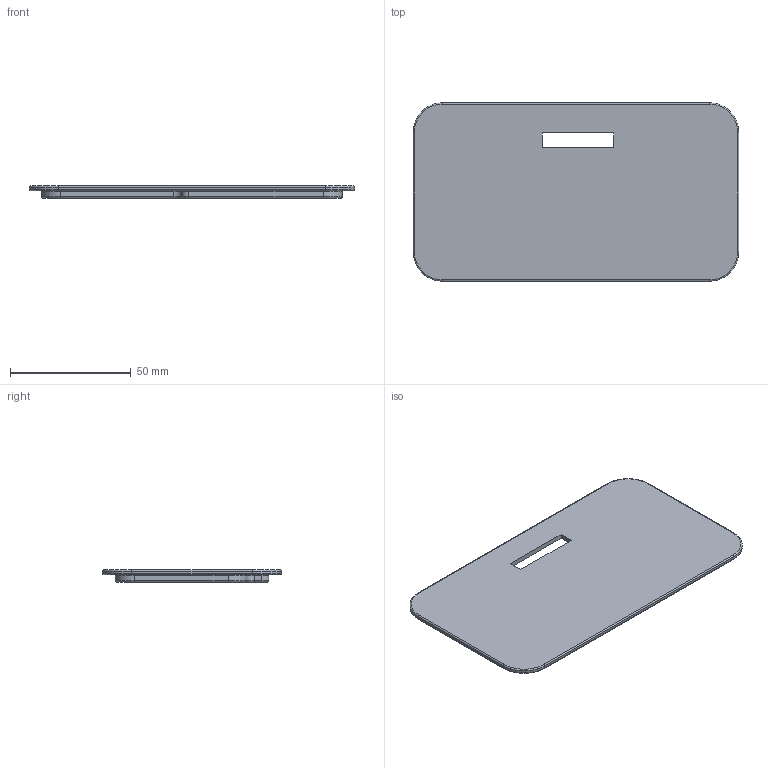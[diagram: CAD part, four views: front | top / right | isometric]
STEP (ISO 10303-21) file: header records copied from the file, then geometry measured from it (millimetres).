
FILE_DESCRIPTION(('FreeCAD Model'),'2;1');
FILE_NAME('Open CASCADE Shape Model','2023-09-06T18:21:01',(''),(''), 'Open CASCADE STEP processor 7.6','FreeCAD','Unknown');
FILE_SCHEMA(('AUTOMOTIVE_DESIGN { 1 0 10303 214 1 1 1 1 }'));
Length unit declared in the file: millimetre
Products named in the file (1): Upper_Case_Sol
Bounding box: 135 x 74 x 5 mm (x, y, z)
Volume: 22255.8 mm3; surface area: 22012.5 mm2
Topology: 1 solids, 1 shells, 104 faces, 236 edges, 135 vertices
Faces by surface type: cylinder 48, torus 31, plane 24, sphere 1
Entity records: 6050 total; most frequent: CARTESIAN_POINT 1107, DIRECTION 1015, LINE 547, VECTOR 547, ORIENTED_EDGE 470, PCURVE 470, DEFINITIONAL_REPRESENTATION 470, EDGE_CURVE 235
